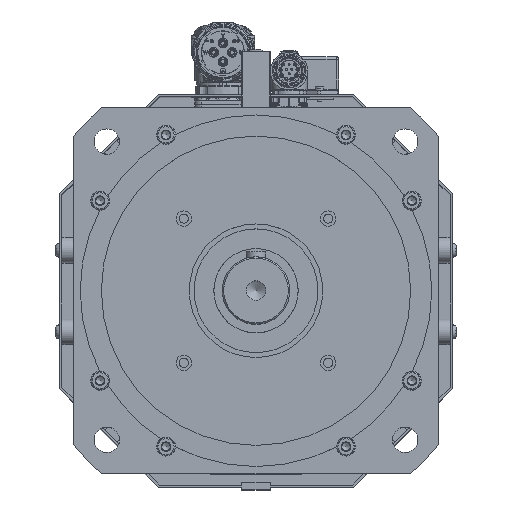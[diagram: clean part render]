
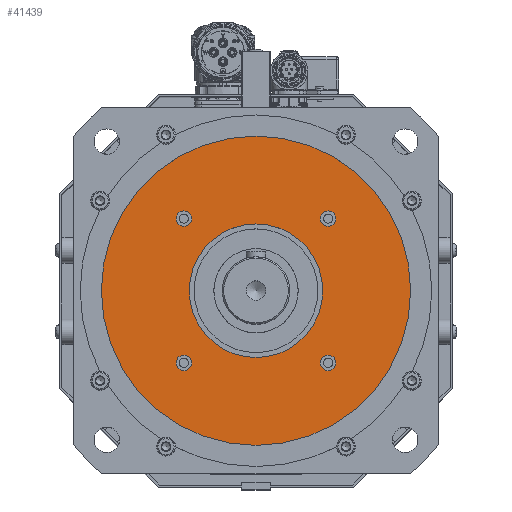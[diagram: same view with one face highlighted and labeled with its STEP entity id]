
A CAD part, top view. The second image highlights one B-rep face of the part: STEP entity #41439.
In plain terms, the highlighted planar face has unit normal (0, 0, 1).
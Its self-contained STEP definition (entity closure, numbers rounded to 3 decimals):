
#12278=FACE_BOUND('',#13431,.T.);
#12279=FACE_BOUND('',#13432,.T.);
#12280=FACE_BOUND('',#13433,.T.);
#12281=FACE_BOUND('',#13434,.T.);
#12282=FACE_BOUND('',#13435,.T.);
#12283=FACE_BOUND('',#13436,.T.);
#13431=EDGE_LOOP('',(#28913));
#13432=EDGE_LOOP('',(#28914));
#13433=EDGE_LOOP('',(#28915));
#13434=EDGE_LOOP('',(#28916));
#13435=EDGE_LOOP('',(#28917));
#13436=EDGE_LOOP('',(#28918));
#16957=CIRCLE('',#44169,5.5);
#16960=CIRCLE('',#44175,5.5);
#16963=CIRCLE('',#44181,5.5);
#16966=CIRCLE('',#44187,5.5);
#17026=CIRCLE('',#44293,47.5);
#17027=CIRCLE('',#44296,110.);
#18946=VERTEX_POINT('',#60148);
#18949=VERTEX_POINT('',#60157);
#18952=VERTEX_POINT('',#60166);
#18955=VERTEX_POINT('',#60175);
#19019=VERTEX_POINT('',#60372);
#19020=VERTEX_POINT('',#60376);
#22972=EDGE_CURVE('',#18946,#18946,#16957,.T.);
#22975=EDGE_CURVE('',#18949,#18949,#16960,.T.);
#22978=EDGE_CURVE('',#18952,#18952,#16963,.T.);
#22981=EDGE_CURVE('',#18955,#18955,#16966,.T.);
#23068=EDGE_CURVE('',#19019,#19019,#17026,.T.);
#23069=EDGE_CURVE('',#19020,#19020,#17027,.T.);
#28913=ORIENTED_EDGE('',*,*,#22972,.T.);
#28914=ORIENTED_EDGE('',*,*,#22975,.T.);
#28915=ORIENTED_EDGE('',*,*,#22978,.T.);
#28916=ORIENTED_EDGE('',*,*,#22981,.T.);
#28917=ORIENTED_EDGE('',*,*,#23068,.T.);
#28918=ORIENTED_EDGE('',*,*,#23069,.F.);
#40238=PLANE('',#44297);
#41439=ADVANCED_FACE('',(#12278,#12279,#12280,#12281,#12282,#12283),#40238,
 .T.);
#44169=AXIS2_PLACEMENT_3D('',#60149,#48750,#48751);
#44175=AXIS2_PLACEMENT_3D('',#60158,#48762,#48763);
#44181=AXIS2_PLACEMENT_3D('',#60167,#48774,#48775);
#44187=AXIS2_PLACEMENT_3D('',#60176,#48786,#48787);
#44293=AXIS2_PLACEMENT_3D('',#60373,#49025,#49026);
#44296=AXIS2_PLACEMENT_3D('',#60377,#49031,#49032);
#44297=AXIS2_PLACEMENT_3D('',#60378,#49033,#49034);
#48750=DIRECTION('center_axis',(0.,0.,-1.));
#48751=DIRECTION('ref_axis',(0.,-1.,0.));
#48762=DIRECTION('center_axis',(0.,0.,-1.));
#48763=DIRECTION('ref_axis',(-1.,0.,0.));
#48774=DIRECTION('center_axis',(0.,0.,-1.));
#48775=DIRECTION('ref_axis',(0.,1.,0.));
#48786=DIRECTION('center_axis',(0.,0.,-1.));
#48787=DIRECTION('ref_axis',(1.,0.,0.));
#49025=DIRECTION('center_axis',(0.,0.,-1.));
#49026=DIRECTION('ref_axis',(-1.,0.,0.));
#49031=DIRECTION('center_axis',(0.,0.,-1.));
#49032=DIRECTION('ref_axis',(-1.,0.,0.));
#49033=DIRECTION('center_axis',(0.,0.,1.));
#49034=DIRECTION('ref_axis',(1.,0.,0.));
#60148=CARTESIAN_POINT('',(51.265,45.765,47.));
#60149=CARTESIAN_POINT('Origin',(51.265,51.265,47.));
#60157=CARTESIAN_POINT('',(45.765,-51.265,47.));
#60158=CARTESIAN_POINT('Origin',(51.265,-51.265,47.));
#60166=CARTESIAN_POINT('',(-51.265,-45.765,47.));
#60167=CARTESIAN_POINT('Origin',(-51.265,-51.265,47.));
#60175=CARTESIAN_POINT('',(-45.765,51.265,47.));
#60176=CARTESIAN_POINT('Origin',(-51.265,51.265,47.));
#60372=CARTESIAN_POINT('',(47.5,0.,47.));
#60373=CARTESIAN_POINT('Origin',(0.,0.,47.));
#60376=CARTESIAN_POINT('',(110.,0.,47.));
#60377=CARTESIAN_POINT('Origin',(0.,0.,47.));
#60378=CARTESIAN_POINT('Origin',(0.,0.,47.));
